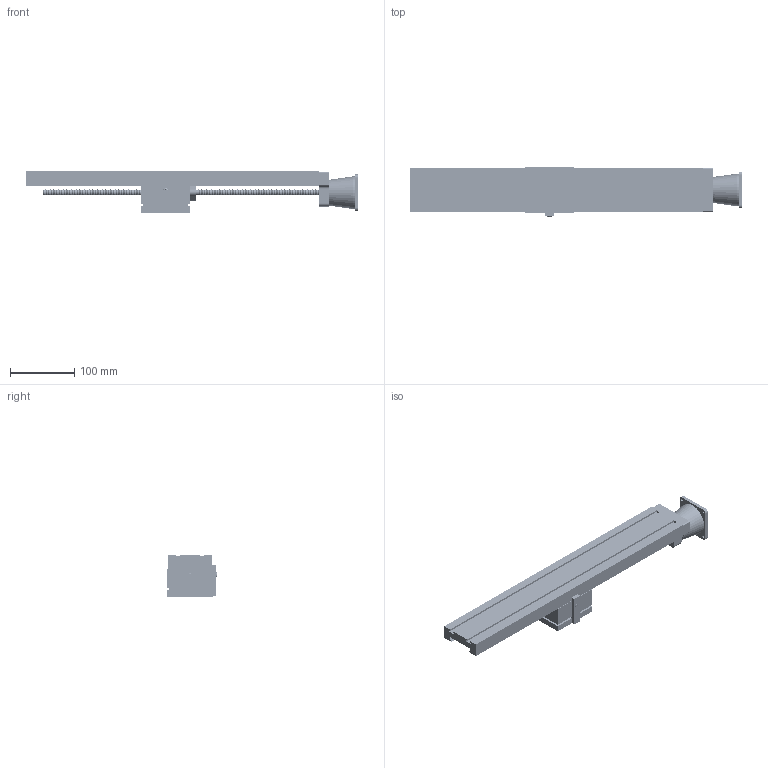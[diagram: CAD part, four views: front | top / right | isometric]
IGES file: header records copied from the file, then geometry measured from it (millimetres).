
Start section: Comment
Global section: file name: 6552-18 BLS CNC ready.igs; native system:  By Spatial Corp.; preprocessor: XPlus PS/IGES 3.0; author: Author; organization: Title; date: 20190325.094517; units: inch
Bounding box: 518.18 x 77.13 x 64.21 mm (x, y, z)
Surface area: 190920.5 mm2 (no closed solid volume)
Topology: 0 solids, 0 shells, 2752 faces, 17454 edges, 17452 vertices
Faces by surface type: revolution 2528, extrusion 204, bspline 20
